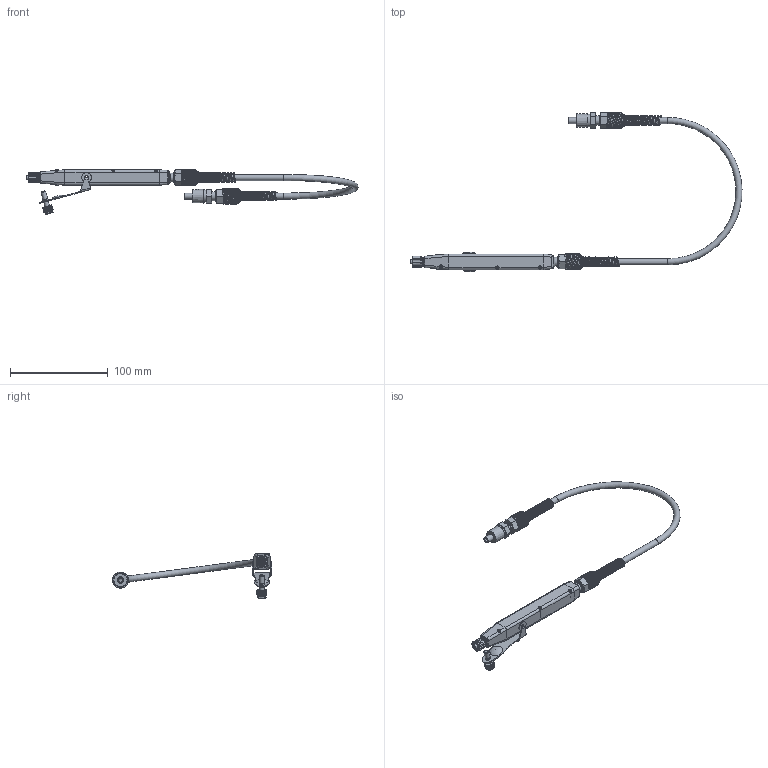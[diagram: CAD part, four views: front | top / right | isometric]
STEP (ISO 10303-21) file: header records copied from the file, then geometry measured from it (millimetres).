
FILE_DESCRIPTION((''),'2;1');
FILE_NAME('C:\3D Projects\3D Standard Parts\97131 Rev D Vari-Drop Applicator.stp','2008-04-23T14:36:39',('patch'),(''),'Autodesk Inventor 2008','Autodesk Inventor 2008','');
FILE_SCHEMA(('AUTOMOTIVE_DESIGN { 1 0 10303 214 1 1 1 1 }'));
Length unit declared in the file: inch
Products named in the file (12): 97131 Rev D Vari-Drop Applicator; 998135 Feedline Connector; 998134 Rev G Needle Adapter; 998247 Housing; 998136 Rev B Trigger; 998138 Thumbscrew 10-32 x 0.625; 984199 Luer Lock Sleeve; 993247 Fitting Nut & Sleeve 0.25 Tube; 999509 Phillips Fillister Head Screw #2-56 x 0.375; 8900000 Rev A Teflon Lined Tubing For VariDrop; 8900062 Rev A 0.25 Tube Spring Guard; 4
Assembly tree (17 placements, depth 2):
  97131 Rev D Vari-Drop Applicator
    998135 Feedline Connector
    998134 Rev G Needle Adapter
    998247 Housing
    998136 Rev B Trigger
    998138 Thumbscrew 10-32 x 0.625
    984199 Luer Lock Sleeve
    993247 Fitting Nut & Sleeve 0.25 Tube
    999509 Phillips Fillister Head Screw #2-56 x 0.375  x6
    8900000 Rev A Teflon Lined Tubing For VariDrop
    8900062 Rev A 0.25 Tube Spring Guard  x2
    4
Bounding box: 340.23 x 163.04 x 46.19 mm (x, y, z)
Volume: 50375.7 mm3; surface area: 45230.4 mm2
Topology: 17 solids, 17 shells, 776 faces, 3219 edges, 2508 vertices
Faces by surface type: plane 391, cylinder 175, bspline 103, cone 71, sphere 18, torus 18
Full cylindrical faces by diameter (mm): 1.575 x2, 1.588 x1, 1.854 x1, 1.981 x3, 2.997 x6, 3.556 x9, 4.191 x2, 4.775 x1, 4.826 x1, 5.334 x1, 6.274 x2, 6.35 x3, 7.1 x4, 7.62 x1, 8 x4, 8.458 x1, 9.119 x3, 9.398 x2, 9.463 x5, 9.525 x1, 9.652 x1, 9.728 x1, 9.906 x1, 11.079 x1, 11.113 x6, 12.7 x1, 12.852 x1, 13.79 x1
Entity records: 31184 total; most frequent: CARTESIAN_POINT 16899, ORIENTED_EDGE 3094, DIRECTION 2619, EDGE_CURVE 1547, VERTEX_POINT 1137, AXIS2_PLACEMENT_3D 1007, EDGE_LOOP 764, VECTOR 605
